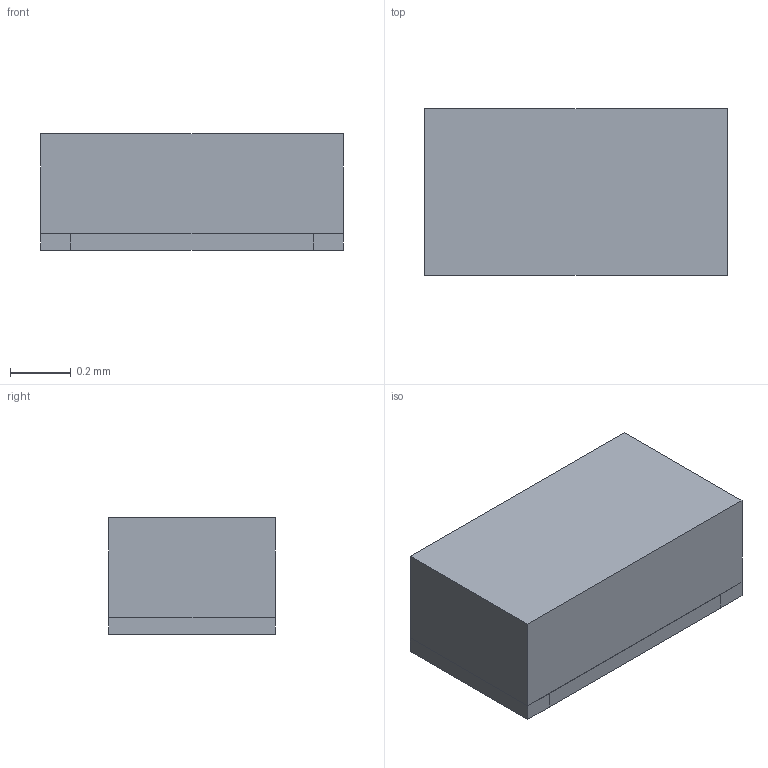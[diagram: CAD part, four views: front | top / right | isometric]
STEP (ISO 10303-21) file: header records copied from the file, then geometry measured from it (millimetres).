
FILE_DESCRIPTION(('STEP AP203'), '1');
FILE_NAME('栖闉罻', '', ('UNSPECIFIED'), ('UNSPECIFIED'), 'ASCON STEP Converter 1.6', 'ASCON Math Kernel', '');
FILE_SCHEMA(('CONFIG_CONTROL_DESIGN'));
Length unit declared in the file: millimetre
Assembly tree (1 placements, depth 2):
  (unnamed)
    (unnamed)
Bounding box: 1 x 0.55 x 0.39 mm (x, y, z)
Volume: 0.2 mm3; surface area: 3.6 mm2
Topology: 4 solids, 5 shells, 43 faces, 99 edges, 66 vertices
Faces by surface type: plane 39, cylinder 4
Entity records: 1659 total; most frequent: CARTESIAN_POINT 210, ORIENTED_EDGE 198, DIRECTION 197, EDGE_CURVE 99, LINE 91, VECTOR 91, VERTEX_POINT 66, AXIS2_PLACEMENT_3D 53
